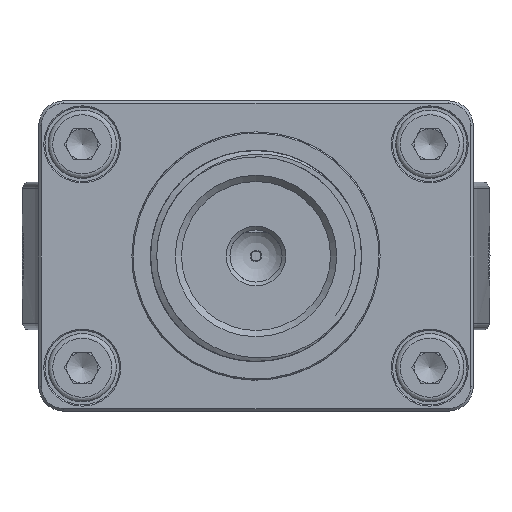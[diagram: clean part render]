
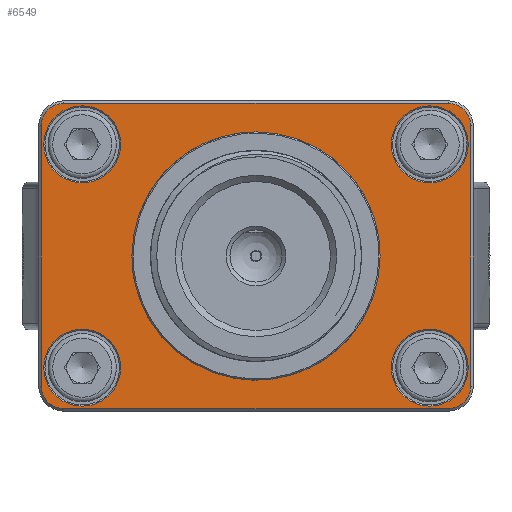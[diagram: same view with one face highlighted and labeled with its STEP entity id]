
A CAD part, front view. The second image highlights one B-rep face of the part: STEP entity #6549.
In plain terms, the highlighted planar face has unit normal (0, -1, 0).
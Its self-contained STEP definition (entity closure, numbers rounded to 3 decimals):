
#5536=LINE('',#29296,#6107);
#5537=LINE('',#29301,#6108);
#5538=LINE('',#29305,#6109);
#5539=LINE('',#29309,#6110);
#6107=VECTOR('',#16032,1.);
#6108=VECTOR('',#16035,1.);
#6109=VECTOR('',#16038,1.);
#6110=VECTOR('',#16041,1.);
#6549=ADVANCED_FACE('',(#7182,#7183,#7184,#7185,#7186,#7187),#6942,.T.);
#6942=PLANE('',#13829);
#7182=FACE_BOUND('',#7972,.T.);
#7183=FACE_BOUND('',#7973,.T.);
#7184=FACE_BOUND('',#7974,.T.);
#7185=FACE_BOUND('',#7975,.T.);
#7186=FACE_BOUND('',#7976,.T.);
#7187=FACE_BOUND('',#7977,.T.);
#7972=EDGE_LOOP('',(#10194));
#7973=EDGE_LOOP('',(#10195));
#7974=EDGE_LOOP('',(#10196));
#7975=EDGE_LOOP('',(#10197));
#7976=EDGE_LOOP('',(#10198));
#7977=EDGE_LOOP('',(#10199,#10200,#10201,#10202,#10203,#10204,#10205,#10206));
#10194=ORIENTED_EDGE('',*,*,#12476,.F.);
#10195=ORIENTED_EDGE('',*,*,#12475,.T.);
#10196=ORIENTED_EDGE('',*,*,#12474,.T.);
#10197=ORIENTED_EDGE('',*,*,#12473,.T.);
#10198=ORIENTED_EDGE('',*,*,#12472,.T.);
#10199=ORIENTED_EDGE('',*,*,#12477,.T.);
#10200=ORIENTED_EDGE('',*,*,#12478,.T.);
#10201=ORIENTED_EDGE('',*,*,#12479,.T.);
#10202=ORIENTED_EDGE('',*,*,#12480,.T.);
#10203=ORIENTED_EDGE('',*,*,#12481,.T.);
#10204=ORIENTED_EDGE('',*,*,#12482,.T.);
#10205=ORIENTED_EDGE('',*,*,#12483,.T.);
#10206=ORIENTED_EDGE('',*,*,#12484,.T.);
#11324=VERTEX_POINT('',#29282);
#11325=VERTEX_POINT('',#29285);
#11326=VERTEX_POINT('',#29288);
#11327=VERTEX_POINT('',#29291);
#11328=VERTEX_POINT('',#29294);
#11329=VERTEX_POINT('',#29297);
#11330=VERTEX_POINT('',#29298);
#11331=VERTEX_POINT('',#29300);
#11332=VERTEX_POINT('',#29302);
#11333=VERTEX_POINT('',#29304);
#11334=VERTEX_POINT('',#29306);
#11335=VERTEX_POINT('',#29308);
#11336=VERTEX_POINT('',#29310);
#12472=EDGE_CURVE('',#11324,#11324,#13008,.T.);
#12473=EDGE_CURVE('',#11325,#11325,#13009,.T.);
#12474=EDGE_CURVE('',#11326,#11326,#13010,.T.);
#12475=EDGE_CURVE('',#11327,#11327,#13011,.T.);
#12476=EDGE_CURVE('',#11328,#11328,#13012,.T.);
#12477=EDGE_CURVE('',#11329,#11330,#5536,.T.);
#12478=EDGE_CURVE('',#11330,#11331,#13013,.T.);
#12479=EDGE_CURVE('',#11331,#11332,#5537,.T.);
#12480=EDGE_CURVE('',#11332,#11333,#13014,.T.);
#12481=EDGE_CURVE('',#11333,#11334,#5538,.T.);
#12482=EDGE_CURVE('',#11334,#11335,#13015,.T.);
#12483=EDGE_CURVE('',#11335,#11336,#5539,.T.);
#12484=EDGE_CURVE('',#11336,#11329,#13016,.T.);
#13008=CIRCLE('',#13815,3.1);
#13009=CIRCLE('',#13817,3.1);
#13010=CIRCLE('',#13819,3.1);
#13011=CIRCLE('',#13821,3.1);
#13012=CIRCLE('',#13823,10.);
#13013=CIRCLE('',#13825,1.8);
#13014=CIRCLE('',#13826,1.8);
#13015=CIRCLE('',#13827,1.8);
#13016=CIRCLE('',#13828,1.8);
#13815=AXIS2_PLACEMENT_3D('',#29281,#16012,#16013);
#13817=AXIS2_PLACEMENT_3D('',#29284,#16016,#16017);
#13819=AXIS2_PLACEMENT_3D('',#29287,#16020,#16021);
#13821=AXIS2_PLACEMENT_3D('',#29290,#16024,#16025);
#13823=AXIS2_PLACEMENT_3D('',#29293,#16028,#16029);
#13825=AXIS2_PLACEMENT_3D('',#29299,#16033,#16034);
#13826=AXIS2_PLACEMENT_3D('',#29303,#16036,#16037);
#13827=AXIS2_PLACEMENT_3D('',#29307,#16039,#16040);
#13828=AXIS2_PLACEMENT_3D('',#29311,#16042,#16043);
#13829=AXIS2_PLACEMENT_3D('',#29312,#16044,#16045);
#16012=DIRECTION('',(0.,1.,0.));
#16013=DIRECTION('',(0.,0.,-1.));
#16016=DIRECTION('',(0.,1.,0.));
#16017=DIRECTION('',(0.,0.,-1.));
#16020=DIRECTION('',(0.,1.,0.));
#16021=DIRECTION('',(0.,0.,-1.));
#16024=DIRECTION('',(0.,1.,0.));
#16025=DIRECTION('',(0.,0.,-1.));
#16028=DIRECTION('',(0.,-1.,0.));
#16029=DIRECTION('',(0.,0.,1.));
#16032=DIRECTION('',(0.,0.,1.));
#16033=DIRECTION('',(0.,-1.,0.));
#16034=DIRECTION('',(0.,0.,1.));
#16035=DIRECTION('',(-1.,0.,0.));
#16036=DIRECTION('',(0.,-1.,0.));
#16037=DIRECTION('',(0.,0.,1.));
#16038=DIRECTION('',(0.,0.,-1.));
#16039=DIRECTION('',(0.,-1.,0.));
#16040=DIRECTION('',(0.,0.,1.));
#16041=DIRECTION('',(1.,0.,0.));
#16042=DIRECTION('',(0.,-1.,0.));
#16043=DIRECTION('',(0.,0.,1.));
#16044=DIRECTION('',(0.,-1.,0.));
#16045=DIRECTION('',(0.,0.,-1.));
#29281=CARTESIAN_POINT('',(-14.,-29.5,-21.5));
#29282=CARTESIAN_POINT('',(-14.,-29.5,-24.6));
#29284=CARTESIAN_POINT('',(-14.,-29.5,-3.5));
#29285=CARTESIAN_POINT('',(-14.,-29.5,-6.6));
#29287=CARTESIAN_POINT('',(14.,-29.5,-3.5));
#29288=CARTESIAN_POINT('',(14.,-29.5,-6.6));
#29290=CARTESIAN_POINT('',(14.,-29.5,-21.5));
#29291=CARTESIAN_POINT('',(14.,-29.5,-24.6));
#29293=CARTESIAN_POINT('',(0.,-29.5,-12.5));
#29294=CARTESIAN_POINT('',(0.,-29.5,-2.5));
#29296=CARTESIAN_POINT('',(17.3,-29.5,-21.5));
#29297=CARTESIAN_POINT('',(17.3,-29.5,-23.));
#29298=CARTESIAN_POINT('',(17.3,-29.5,-2.));
#29299=CARTESIAN_POINT('',(15.5,-29.5,-2.));
#29300=CARTESIAN_POINT('',(15.5,-29.5,-0.2));
#29301=CARTESIAN_POINT('',(-14.,-29.5,-0.2));
#29302=CARTESIAN_POINT('',(-15.5,-29.5,-0.2));
#29303=CARTESIAN_POINT('',(-15.5,-29.5,-2.));
#29304=CARTESIAN_POINT('',(-17.3,-29.5,-2.));
#29305=CARTESIAN_POINT('',(-17.3,-29.5,-21.5));
#29306=CARTESIAN_POINT('',(-17.3,-29.5,-23.));
#29307=CARTESIAN_POINT('',(-15.5,-29.5,-23.));
#29308=CARTESIAN_POINT('',(-15.5,-29.5,-24.8));
#29309=CARTESIAN_POINT('',(-14.,-29.5,-24.8));
#29310=CARTESIAN_POINT('',(15.5,-29.5,-24.8));
#29311=CARTESIAN_POINT('',(15.5,-29.5,-23.));
#29312=CARTESIAN_POINT('',(-14.,-29.5,-21.5));
